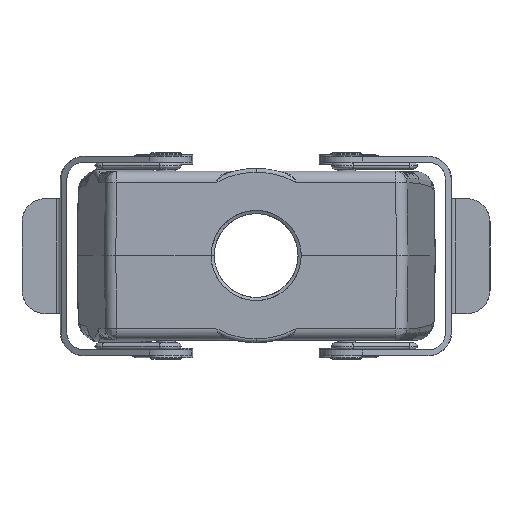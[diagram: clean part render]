
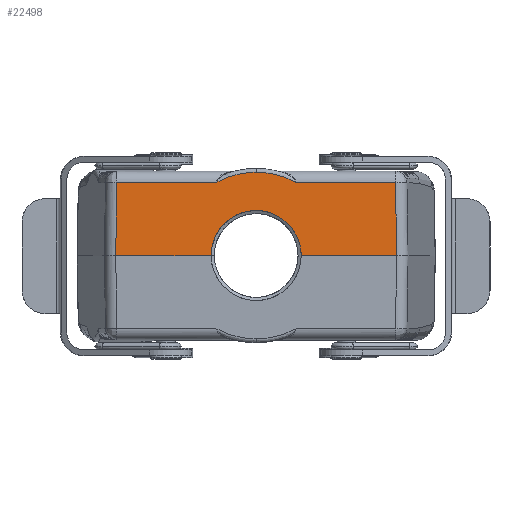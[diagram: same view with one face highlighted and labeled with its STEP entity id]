
A CAD part, top view. The second image highlights one B-rep face of the part: STEP entity #22498.
In plain terms, the highlighted planar face has unit normal (0, 0.018, 1) as drawn and (0, 1, 0.017) by its records, which use the part's own axes.
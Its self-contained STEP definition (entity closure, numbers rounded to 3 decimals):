
#517 = VERTEX_POINT ( 'NONE', #25607 ) ;
#775 = CARTESIAN_POINT ( 'NONE',  ( 52.5, 76., 0. ) ) ;
#963 =( BOUNDED_CURVE ( )  B_SPLINE_CURVE ( 3, ( #12021, #33382, #17386, #4035 ),
 .UNSPECIFIED., .F., .T. ) 
 B_SPLINE_CURVE_WITH_KNOTS ( ( 4, 4 ),
 ( 3.142, 4.712 ),
 .UNSPECIFIED. ) 
 CURVE ( )  GEOMETRIC_REPRESENTATION_ITEM ( )  RATIONAL_B_SPLINE_CURVE ( ( 1., 0.805, 0.805, 1. ) ) 
 REPRESENTATION_ITEM ( '' )  );
#1089 = ORIENTED_EDGE ( 'NONE', *, *, #21786, .T. ) ;
#1204 = EDGE_CURVE ( 'NONE', #15361, #4435, #26606, .T. ) ;
#1675 = ORIENTED_EDGE ( 'NONE', *, *, #28452, .T. ) ;
#1692 = ORIENTED_EDGE ( 'NONE', *, *, #23838, .T. ) ;
#1786 = LINE ( 'NONE', #15751, #4332 ) ;
#1983 = FACE_OUTER_BOUND ( 'NONE', #31591, .T. ) ;
#2479 = ORIENTED_EDGE ( 'NONE', *, *, #10288, .F. ) ;
#2742 = DIRECTION ( 'NONE',  ( -1., 0., 0. ) ) ;
#3553 = VECTOR ( 'NONE', #10044, 1000. ) ;
#3972 = CARTESIAN_POINT ( 'NONE',  ( 8.911, 75.652, 19.944 ) ) ;
#4035 = CARTESIAN_POINT ( 'NONE',  ( -11.75, 76., 0. ) ) ;
#4332 = VECTOR ( 'NONE', #2742, 1000. ) ;
#4435 = VERTEX_POINT ( 'NONE', #24811 ) ;
#4860 = CARTESIAN_POINT ( 'NONE',  ( 11.75, 75.88, 6.883 ) ) ;
#5260 = LINE ( 'NONE', #775, #15285 ) ;
#5662 = DIRECTION ( 'NONE',  ( -1., 0., 0. ) ) ;
#5727 = CARTESIAN_POINT ( 'NONE',  ( -8.913, 75.652, 19.942 ) ) ;
#6280 = VECTOR ( 'NONE', #31400, 1000. ) ;
#8130 = CARTESIAN_POINT ( 'NONE',  ( -36.372, 75.667, 19.052 ) ) ;
#9028 = ORIENTED_EDGE ( 'NONE', *, *, #1204, .T. ) ;
#9048 = CARTESIAN_POINT ( 'NONE',  ( 7.213, 75.64, 20.619 ) ) ;
#9702 = CARTESIAN_POINT ( 'NONE',  ( 36.366, 75.66, 19.458 ) ) ;
#9936 = ORIENTED_EDGE ( 'NONE', *, *, #12565, .F. ) ;
#10044 = DIRECTION ( 'NONE',  ( 1., 0., 0. ) ) ;
#10105 = CARTESIAN_POINT ( 'NONE',  ( 6.883, 75.795, 11.75 ) ) ;
#10288 = EDGE_CURVE ( 'NONE', #30124, #4435, #34722, .T. ) ;
#10697 = LINE ( 'NONE', #23363, #3553 ) ;
#10756 = LINE ( 'NONE', #14892, #19951 ) ;
#11096 = CARTESIAN_POINT ( 'NONE',  ( -0.007, 75.62, 21.767 ) ) ;
#11600 = DIRECTION ( 'NONE',  ( 0., -0.017, 1. ) ) ;
#11658 = ORIENTED_EDGE ( 'NONE', *, *, #23669, .T. ) ;
#11838 = CARTESIAN_POINT ( 'NONE',  ( -0.007, 75.62, 21.767 ) ) ;
#12021 = CARTESIAN_POINT ( 'NONE',  ( 0., 75.795, 11.75 ) ) ;
#12113 = CARTESIAN_POINT ( 'NONE',  ( 52.5, 75.667, 19.052 ) ) ;
#12565 = EDGE_CURVE ( 'NONE', #18695, #28523, #10756, .T. ) ;
#13049 =( BOUNDED_CURVE ( )  B_SPLINE_CURVE ( 3, ( #26113, #4860, #10105, #28804 ),
 .UNSPECIFIED., .F., .T. ) 
 B_SPLINE_CURVE_WITH_KNOTS ( ( 4, 4 ),
 ( 1.571, 3.142 ),
 .UNSPECIFIED. ) 
 CURVE ( )  GEOMETRIC_REPRESENTATION_ITEM ( )  RATIONAL_B_SPLINE_CURVE ( ( 1., 0.805, 0.805, 1. ) ) 
 REPRESENTATION_ITEM ( '' )  );
#13694 = CARTESIAN_POINT ( 'NONE',  ( -3.659, 75.624, 21.536 ) ) ;
#13772 = EDGE_CURVE ( 'NONE', #18695, #24821, #10697, .T. ) ;
#14308 = PLANE ( 'NONE',  #17959 ) ;
#14892 = CARTESIAN_POINT ( 'NONE',  ( -37.855, 77.384, -79.306 ) ) ;
#15285 = VECTOR ( 'NONE', #5662, 1000. ) ;
#15361 = VERTEX_POINT ( 'NONE', #23592 ) ;
#15751 = CARTESIAN_POINT ( 'NONE',  ( 52.5, 76., 0. ) ) ;
#16160 = B_SPLINE_CURVE_WITH_KNOTS ( 'NONE', 3,
 ( #18702, #5727, #29990, #13694, #29652, #11096 ),
 .UNSPECIFIED., .F., .F.,
 ( 4, 2, 4 ),
 ( 0., 0.5, 1. ),
 .UNSPECIFIED. ) ;
#16504 = CARTESIAN_POINT ( 'NONE',  ( 52.5, 76., 0. ) ) ;
#16721 = ORIENTED_EDGE ( 'NONE', *, *, #21539, .T. ) ;
#17386 = CARTESIAN_POINT ( 'NONE',  ( -11.75, 75.88, 6.883 ) ) ;
#17959 = AXIS2_PLACEMENT_3D ( 'NONE', #16504, #27479, #11600 ) ;
#17962 = CARTESIAN_POINT ( 'NONE',  ( -0.007, 75.62, 21.767 ) ) ;
#18695 = VERTEX_POINT ( 'NONE', #8130 ) ;
#18702 = CARTESIAN_POINT ( 'NONE',  ( -10.523, 75.667, 19.052 ) ) ;
#19663 = VERTEX_POINT ( 'NONE', #26934 ) ;
#19951 = VECTOR ( 'NONE', #33564, 1000. ) ;
#20026 = CARTESIAN_POINT ( 'NONE',  ( 1.837, 75.62, 21.767 ) ) ;
#21459 = CARTESIAN_POINT ( 'NONE',  ( -10.523, 75.667, 19.052 ) ) ;
#21539 = EDGE_CURVE ( 'NONE', #24821, #28607, #16160, .T. ) ;
#21786 = EDGE_CURVE ( 'NONE', #31142, #517, #963, .T. ) ;
#22347 = CARTESIAN_POINT ( 'NONE',  ( 3.649, 75.624, 21.538 ) ) ;
#22498 = ADVANCED_FACE ( 'NONE', ( #1983 ), #14308, .T. ) ;
#22727 = DIRECTION ( 'NONE',  ( 1., 0., 0. ) ) ;
#23363 = CARTESIAN_POINT ( 'NONE',  ( 52.5, 75.667, 19.052 ) ) ;
#23592 = CARTESIAN_POINT ( 'NONE',  ( 10.523, 75.667, 19.052 ) ) ;
#23669 = EDGE_CURVE ( 'NONE', #30124, #19663, #5260, .T. ) ;
#23838 = EDGE_CURVE ( 'NONE', #28607, #15361, #26885, .T. ) ;
#24811 = CARTESIAN_POINT ( 'NONE',  ( 36.372, 75.667, 19.053 ) ) ;
#24821 = VERTEX_POINT ( 'NONE', #21459 ) ;
#25607 = CARTESIAN_POINT ( 'NONE',  ( -11.75, 76., 0. ) ) ;
#26113 = CARTESIAN_POINT ( 'NONE',  ( 11.75, 76., 0. ) ) ;
#26606 = LINE ( 'NONE', #12113, #29506 ) ;
#26885 = B_SPLINE_CURVE_WITH_KNOTS ( 'NONE', 3,
 ( #11838, #20026, #22347, #9048, #3972, #30401 ),
 .UNSPECIFIED., .F., .F.,
 ( 4, 2, 4 ),
 ( 0., 0.5, 1. ),
 .UNSPECIFIED. ) ;
#26934 = CARTESIAN_POINT ( 'NONE',  ( 11.75, 76., 0. ) ) ;
#27479 = DIRECTION ( 'NONE',  ( 0., 1., 0.017 ) ) ;
#28452 = EDGE_CURVE ( 'NONE', #517, #28523, #1786, .T. ) ;
#28523 = VERTEX_POINT ( 'NONE', #33605 ) ;
#28592 = EDGE_CURVE ( 'NONE', #19663, #31142, #13049, .T. ) ;
#28607 = VERTEX_POINT ( 'NONE', #17962 ) ;
#28804 = CARTESIAN_POINT ( 'NONE',  ( 0., 75.795, 11.75 ) ) ;
#29506 = VECTOR ( 'NONE', #22727, 1000. ) ;
#29652 = CARTESIAN_POINT ( 'NONE',  ( -1.849, 75.62, 21.766 ) ) ;
#29990 = CARTESIAN_POINT ( 'NONE',  ( -7.217, 75.64, 20.617 ) ) ;
#30124 = VERTEX_POINT ( 'NONE', #32055 ) ;
#30303 = ORIENTED_EDGE ( 'NONE', *, *, #28592, .T. ) ;
#30401 = CARTESIAN_POINT ( 'NONE',  ( 10.523, 75.667, 19.052 ) ) ;
#31142 = VERTEX_POINT ( 'NONE', #32002 ) ;
#31400 = DIRECTION ( 'NONE',  ( -0.015, -0.017, 1. ) ) ;
#31591 = EDGE_LOOP ( 'NONE', ( #11658, #30303, #1089, #1675, #9936, #33929, #16721, #1692, #9028, #2479 ) ) ;
#32002 = CARTESIAN_POINT ( 'NONE',  ( 0., 75.795, 11.75 ) ) ;
#32055 = CARTESIAN_POINT ( 'NONE',  ( 36.659, 76., 0. ) ) ;
#33382 = CARTESIAN_POINT ( 'NONE',  ( -6.883, 75.795, 11.75 ) ) ;
#33564 = DIRECTION ( 'NONE',  ( -0.015, 0.017, -1. ) ) ;
#33605 = CARTESIAN_POINT ( 'NONE',  ( -36.659, 76., 0. ) ) ;
#33929 = ORIENTED_EDGE ( 'NONE', *, *, #13772, .T. ) ;
#34722 = LINE ( 'NONE', #9702, #6280 ) ;
